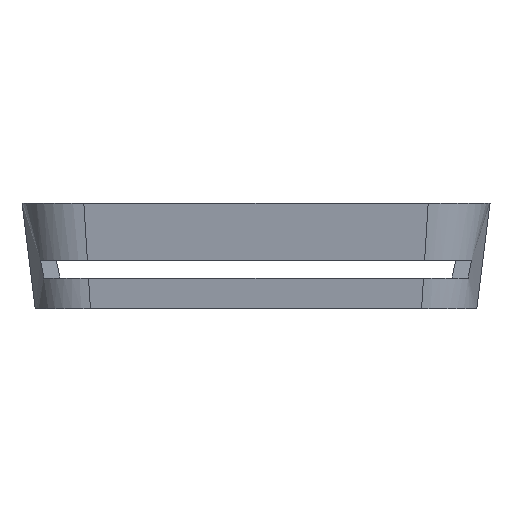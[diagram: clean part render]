
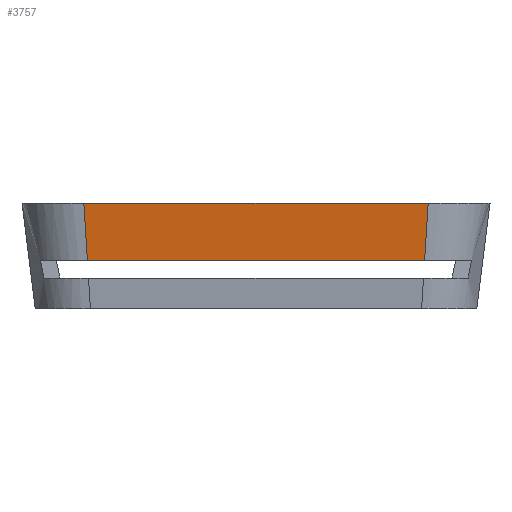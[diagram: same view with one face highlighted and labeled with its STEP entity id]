
A CAD part, left-side view. The second image highlights one B-rep face of the part: STEP entity #3757.
In plain terms, the highlighted free-form (B-spline) face has degree [1, 1] with [2, 2] control points.
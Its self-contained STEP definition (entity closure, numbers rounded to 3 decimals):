
#88 = B_SPLINE_SURFACE_WITH_KNOTS('',8,1,(
    (#89,#90)
    ,(#91,#92)
    ,(#93,#94)
    ,(#95,#96)
    ,(#97,#98)
    ,(#99,#100)
    ,(#101,#102)
    ,(#103,#104)
    ,(#105,#106
    )),.UNSPECIFIED.,.F.,.F.,.F.,(9,9),(2,2),(0.,1.571),(0.,1.)
  ,.PIECEWISE_BEZIER_KNOTS.);
#89 = CARTESIAN_POINT('',(-94.,-37.5,0.));
#90 = CARTESIAN_POINT('',(-97.,-39.,24.));
#91 = CARTESIAN_POINT('',(-94.,-39.954,0.));
#92 = CARTESIAN_POINT('',(-97.,-41.749,24.));
#93 = CARTESIAN_POINT('',(-93.449,-42.409,0.));
#94 = CARTESIAN_POINT('',(-96.383,-44.498,
    24.));
#95 = CARTESIAN_POINT('',(-92.348,-44.719,0.));
#96 = CARTESIAN_POINT('',(-95.149,-47.085,
    24.));
#97 = CARTESIAN_POINT('',(-90.741,-46.741,0.));
#98 = CARTESIAN_POINT('',(-93.35,-49.35,
    24.));
#99 = CARTESIAN_POINT('',(-88.719,-48.348,0.));
#100 = CARTESIAN_POINT('',(-91.085,-51.149,
    24.));
#101 = CARTESIAN_POINT('',(-86.409,-49.449,0.));
#102 = CARTESIAN_POINT('',(-88.498,-52.383,
    24.));
#103 = CARTESIAN_POINT('',(-83.954,-50.,0.));
#104 = CARTESIAN_POINT('',(-85.749,-53.,24.));
#105 = CARTESIAN_POINT('',(-81.5,-50.,0.));
#106 = CARTESIAN_POINT('',(-83.,-53.,24.));
#152 = B_SPLINE_SURFACE_WITH_KNOTS('',8,1,(
    (#153,#154)
    ,(#155,#156)
    ,(#157,#158)
    ,(#159,#160)
    ,(#161,#162)
    ,(#163,#164)
    ,(#165,#166)
    ,(#167,#168)
    ,(#169,#170
    )),.UNSPECIFIED.,.F.,.F.,.F.,(9,9),(2,2),(4.712,
    6.283),(0.,1.),.PIECEWISE_BEZIER_KNOTS.);
#153 = CARTESIAN_POINT('',(-81.5,50.,0.));
#154 = CARTESIAN_POINT('',(-83.,53.,24.));
#155 = CARTESIAN_POINT('',(-83.954,50.,0.));
#156 = CARTESIAN_POINT('',(-85.749,53.,24.));
#157 = CARTESIAN_POINT('',(-86.409,49.449,0.));
#158 = CARTESIAN_POINT('',(-88.498,52.383,
    24.));
#159 = CARTESIAN_POINT('',(-88.719,48.348,0.));
#160 = CARTESIAN_POINT('',(-91.085,51.149,
    24.));
#161 = CARTESIAN_POINT('',(-90.741,46.741,0.));
#162 = CARTESIAN_POINT('',(-93.35,49.35,
    24.));
#163 = CARTESIAN_POINT('',(-92.348,44.719,0.));
#164 = CARTESIAN_POINT('',(-95.149,47.085,
    24.));
#165 = CARTESIAN_POINT('',(-93.449,42.409,0.));
#166 = CARTESIAN_POINT('',(-96.383,44.498,
    24.));
#167 = CARTESIAN_POINT('',(-94.,39.954,0.));
#168 = CARTESIAN_POINT('',(-97.,41.749,24.));
#169 = CARTESIAN_POINT('',(-94.,37.5,0.));
#170 = CARTESIAN_POINT('',(-97.,39.,24.));
#751 = VERTEX_POINT('',#752);
#752 = CARTESIAN_POINT('',(-95.375,38.187,11.));
#794 = PLANE('',#795);
#795 = AXIS2_PLACEMENT_3D('',#796,#797,#798);
#796 = CARTESIAN_POINT('',(-102.,-85.,11.));
#797 = DIRECTION('',(0.,0.,1.));
#798 = DIRECTION('',(1.,0.,-0.));
#820 = EDGE_CURVE('',#751,#821,#823,.T.);
#821 = VERTEX_POINT('',#822);
#822 = CARTESIAN_POINT('',(-97.,39.,24.));
#823 = SURFACE_CURVE('',#824,(#827,#834),.PCURVE_S1.);
#824 = B_SPLINE_CURVE_WITH_KNOTS('',1,(#825,#826),.UNSPECIFIED.,.F.,.F.,
  (2,2),(0.,1.),.PIECEWISE_BEZIER_KNOTS.);
#825 = CARTESIAN_POINT('',(-94.,37.5,0.));
#826 = CARTESIAN_POINT('',(-97.,39.,24.));
#827 = PCURVE('',#152,#828);
#828 = DEFINITIONAL_REPRESENTATION('',(#829),#833);
#829 = LINE('',#830,#831);
#830 = CARTESIAN_POINT('',(6.283,0.));
#831 = VECTOR('',#832,1.);
#832 = DIRECTION('',(0.,1.));
#833 = ( GEOMETRIC_REPRESENTATION_CONTEXT(2) 
PARAMETRIC_REPRESENTATION_CONTEXT() REPRESENTATION_CONTEXT('2D SPACE',''
  ) );
#834 = PCURVE('',#835,#840);
#835 = B_SPLINE_SURFACE_WITH_KNOTS('',1,1,(
    (#836,#837)
    ,(#838,#839
    )),.UNSPECIFIED.,.F.,.F.,.F.,(2,2),(2,2),(-39.,39.),(0.,
    1.),.PIECEWISE_BEZIER_KNOTS.);
#836 = CARTESIAN_POINT('',(-94.,37.5,0.));
#837 = CARTESIAN_POINT('',(-97.,39.,24.));
#838 = CARTESIAN_POINT('',(-94.,-37.5,0.));
#839 = CARTESIAN_POINT('',(-97.,-39.,24.));
#840 = DEFINITIONAL_REPRESENTATION('',(#841),#845);
#841 = LINE('',#842,#843);
#842 = CARTESIAN_POINT('',(-39.,0.));
#843 = VECTOR('',#844,1.);
#844 = DIRECTION('',(0.,1.));
#845 = ( GEOMETRIC_REPRESENTATION_CONTEXT(2) 
PARAMETRIC_REPRESENTATION_CONTEXT() REPRESENTATION_CONTEXT('2D SPACE',''
  ) );
#864 = PLANE('',#865);
#865 = AXIS2_PLACEMENT_3D('',#866,#867,#868);
#866 = CARTESIAN_POINT('',(-83.,-39.,24.));
#867 = DIRECTION('',(0.,0.,1.));
#868 = DIRECTION('',(1.,0.,0.));
#1211 = VERTEX_POINT('',#1212);
#1212 = CARTESIAN_POINT('',(-97.,-39.,24.));
#1234 = EDGE_CURVE('',#1235,#1211,#1237,.T.);
#1235 = VERTEX_POINT('',#1236);
#1236 = CARTESIAN_POINT('',(-95.375,-38.188,11.));
#1237 = SURFACE_CURVE('',#1238,(#1241,#1248),.PCURVE_S1.);
#1238 = B_SPLINE_CURVE_WITH_KNOTS('',1,(#1239,#1240),.UNSPECIFIED.,.F.,
  .F.,(2,2),(0.,1.),.PIECEWISE_BEZIER_KNOTS.);
#1239 = CARTESIAN_POINT('',(-94.,-37.5,0.));
#1240 = CARTESIAN_POINT('',(-97.,-39.,24.));
#1241 = PCURVE('',#88,#1242);
#1242 = DEFINITIONAL_REPRESENTATION('',(#1243),#1247);
#1243 = LINE('',#1244,#1245);
#1244 = CARTESIAN_POINT('',(0.,0.));
#1245 = VECTOR('',#1246,1.);
#1246 = DIRECTION('',(0.,1.));
#1247 = ( GEOMETRIC_REPRESENTATION_CONTEXT(2) 
PARAMETRIC_REPRESENTATION_CONTEXT() REPRESENTATION_CONTEXT('2D SPACE',''
  ) );
#1248 = PCURVE('',#835,#1249);
#1249 = DEFINITIONAL_REPRESENTATION('',(#1250),#1254);
#1250 = LINE('',#1251,#1252);
#1251 = CARTESIAN_POINT('',(39.,0.));
#1252 = VECTOR('',#1253,1.);
#1253 = DIRECTION('',(0.,1.));
#1254 = ( GEOMETRIC_REPRESENTATION_CONTEXT(2) 
PARAMETRIC_REPRESENTATION_CONTEXT() REPRESENTATION_CONTEXT('2D SPACE',''
  ) );
#2605 = EDGE_CURVE('',#1211,#821,#2606,.T.);
#2606 = SURFACE_CURVE('',#2607,(#2611,#2618),.PCURVE_S1.);
#2607 = LINE('',#2608,#2609);
#2608 = CARTESIAN_POINT('',(-97.,0.,24.));
#2609 = VECTOR('',#2610,1.);
#2610 = DIRECTION('',(0.,1.,0.));
#2611 = PCURVE('',#864,#2612);
#2612 = DEFINITIONAL_REPRESENTATION('',(#2613),#2617);
#2613 = LINE('',#2614,#2615);
#2614 = CARTESIAN_POINT('',(-14.,39.));
#2615 = VECTOR('',#2616,1.);
#2616 = DIRECTION('',(0.,1.));
#2617 = ( GEOMETRIC_REPRESENTATION_CONTEXT(2) 
PARAMETRIC_REPRESENTATION_CONTEXT() REPRESENTATION_CONTEXT('2D SPACE',''
  ) );
#2618 = PCURVE('',#835,#2619);
#2619 = DEFINITIONAL_REPRESENTATION('',(#2620),#2624);
#2620 = LINE('',#2621,#2622);
#2621 = CARTESIAN_POINT('',(0.,1.));
#2622 = VECTOR('',#2623,1.);
#2623 = DIRECTION('',(-1.,0.));
#2624 = ( GEOMETRIC_REPRESENTATION_CONTEXT(2) 
PARAMETRIC_REPRESENTATION_CONTEXT() REPRESENTATION_CONTEXT('2D SPACE',''
  ) );
#3757 = ADVANCED_FACE('',(#3758),#835,.T.);
#3758 = FACE_BOUND('',#3759,.T.);
#3759 = EDGE_LOOP('',(#3760,#3778,#3779,#3780));
#3760 = ORIENTED_EDGE('',*,*,#3761,.F.);
#3761 = EDGE_CURVE('',#1235,#751,#3762,.T.);
#3762 = SURFACE_CURVE('',#3763,(#3766,#3772),.PCURVE_S1.);
#3763 = B_SPLINE_CURVE_WITH_KNOTS('',1,(#3764,#3765),.UNSPECIFIED.,.F.,
  .F.,(2,2),(0.,1.),.PIECEWISE_BEZIER_KNOTS.);
#3764 = CARTESIAN_POINT('',(-95.375,-38.188,11.));
#3765 = CARTESIAN_POINT('',(-95.375,38.187,11.));
#3766 = PCURVE('',#835,#3767);
#3767 = DEFINITIONAL_REPRESENTATION('',(#3768),#3771);
#3768 = B_SPLINE_CURVE_WITH_KNOTS('',1,(#3769,#3770),.UNSPECIFIED.,.F.,
  .F.,(2,2),(0.,1.),.PIECEWISE_BEZIER_KNOTS.);
#3769 = CARTESIAN_POINT('',(39.,0.458));
#3770 = CARTESIAN_POINT('',(-39.,0.458));
#3771 = ( GEOMETRIC_REPRESENTATION_CONTEXT(2) 
PARAMETRIC_REPRESENTATION_CONTEXT() REPRESENTATION_CONTEXT('2D SPACE',''
  ) );
#3772 = PCURVE('',#794,#3773);
#3773 = DEFINITIONAL_REPRESENTATION('',(#3774),#3777);
#3774 = B_SPLINE_CURVE_WITH_KNOTS('',1,(#3775,#3776),.UNSPECIFIED.,.F.,
  .F.,(2,2),(0.,1.),.PIECEWISE_BEZIER_KNOTS.);
#3775 = CARTESIAN_POINT('',(6.625,46.813));
#3776 = CARTESIAN_POINT('',(6.625,123.187));
#3777 = ( GEOMETRIC_REPRESENTATION_CONTEXT(2) 
PARAMETRIC_REPRESENTATION_CONTEXT() REPRESENTATION_CONTEXT('2D SPACE',''
  ) );
#3778 = ORIENTED_EDGE('',*,*,#1234,.T.);
#3779 = ORIENTED_EDGE('',*,*,#2605,.T.);
#3780 = ORIENTED_EDGE('',*,*,#820,.F.);
